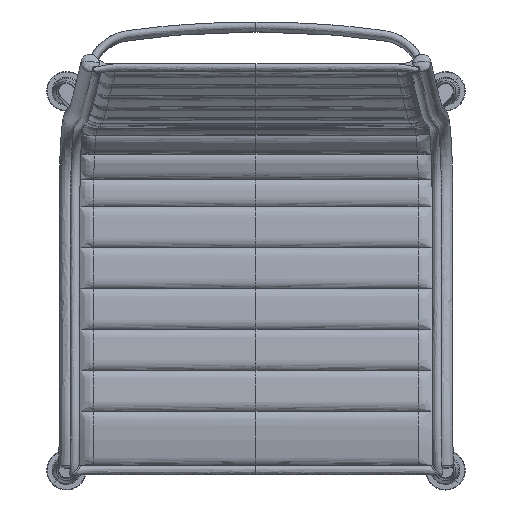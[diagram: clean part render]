
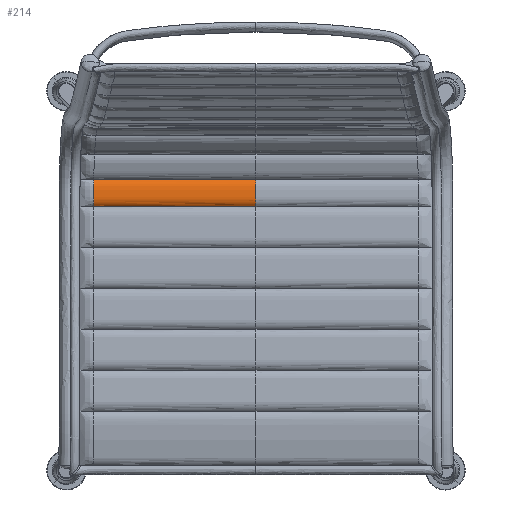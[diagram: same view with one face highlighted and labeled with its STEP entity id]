
A CAD part, top view. The second image highlights one B-rep face of the part: STEP entity #214.
In plain terms, the highlighted free-form (B-spline) face has degree [1, 3] with [2, 22] control points.
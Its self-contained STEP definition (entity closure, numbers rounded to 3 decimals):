
#214=ADVANCED_FACE('',(#565),#4840,.T.);
#565=FACE_OUTER_BOUND('',#916,.T.);
#916=EDGE_LOOP('',(#1724,#1725,#1726,#1727));
#1724=ORIENTED_EDGE('',*,*,#2993,.T.);
#1725=ORIENTED_EDGE('',*,*,#2991,.T.);
#1726=ORIENTED_EDGE('',*,*,#2992,.F.);
#1727=ORIENTED_EDGE('',*,*,#2994,.F.);
#2991=EDGE_CURVE('',#4493,#4492,#4013,.T.);
#2992=EDGE_CURVE('',#4494,#4492,#4014,.T.);
#2993=EDGE_CURVE('',#4495,#4493,#4015,.T.);
#2994=EDGE_CURVE('',#4495,#4494,#4016,.T.);
#4013=B_SPLINE_CURVE_WITH_KNOTS('',1,(#18047,#18048),.UNSPECIFIED.,.F.,
 .F.,(2,2),(-206.185,0.),.UNSPECIFIED.);
#4014=B_SPLINE_CURVE_WITH_KNOTS('',3,(#18049,#18050,#18051,#18052,#18053,
#18054,#18055,#18056,#18057,#18058,#18059,#18060,#18061,#18062,#18063,#18064,
#18065,#18066,#18067,#18068,#18069,#18070),.UNSPECIFIED.,.F.,.F.,(4,3,3,
3,3,3,3,4),(0.,4.786,9.818,15.612,19.005,
22.423,27.882,37.45),.UNSPECIFIED.);
#4015=B_SPLINE_CURVE_WITH_KNOTS('',3,(#18071,#18072,#18073,#18074,#18075,
#18076,#18077,#18078,#18079,#18080,#18081,#18082,#18083,#18084,#18085,#18086,
#18087,#18088,#18089,#18090,#18091,#18092),.UNSPECIFIED.,.F.,.F.,(4,3,3,
3,3,3,3,4),(0.,4.781,9.811,15.605,18.997,
22.415,27.875,37.437),.UNSPECIFIED.);
#4016=B_SPLINE_CURVE_WITH_KNOTS('',1,(#18093,#18094),.UNSPECIFIED.,.F.,
 .F.,(2,2),(-206.288,0.),.UNSPECIFIED.);
#4492=VERTEX_POINT('',#17409);
#4493=VERTEX_POINT('',#17410);
#4494=VERTEX_POINT('',#17411);
#4495=VERTEX_POINT('',#17412);
#4840=B_SPLINE_SURFACE_WITH_KNOTS('',1,3,((#12393,#12394,#12395,#12396,
#12397,#12398,#12399,#12400,#12401,#12402,#12403,#12404,#12405,#12406,#12407,
#12408,#12409,#12410,#12411,#12412,#12413,#12414),(#12415,#12416,#12417,
#12418,#12419,#12420,#12421,#12422,#12423,#12424,#12425,#12426,#12427,#12428,
#12429,#12430,#12431,#12432,#12433,#12434,#12435,#12436)),.UNSPECIFIED.,
 .F.,.F.,.F.,(2,2),(4,3,3,3,3,3,3,4),(0.,266.163),(0.,4.786,
9.818,15.612,19.005,22.423,27.882,
37.45),.UNSPECIFIED.);
#12393=CARTESIAN_POINT('',(-206.288,92.932,465.755));
#12394=CARTESIAN_POINT('',(-206.201,93.965,466.956));
#12395=CARTESIAN_POINT('',(-206.125,95.216,467.972));
#12396=CARTESIAN_POINT('',(-206.065,96.608,468.732));
#12397=CARTESIAN_POINT('',(-206.002,98.072,469.532));
#12398=CARTESIAN_POINT('',(-205.958,99.688,470.047));
#12399=CARTESIAN_POINT('',(-205.929,101.329,470.33));
#12400=CARTESIAN_POINT('',(-205.896,103.231,470.657));
#12401=CARTESIAN_POINT('',(-205.883,105.171,470.673));
#12402=CARTESIAN_POINT('',(-205.88,107.09,470.544));
#12403=CARTESIAN_POINT('',(-205.879,108.218,470.468));
#12404=CARTESIAN_POINT('',(-205.881,109.343,470.343));
#12405=CARTESIAN_POINT('',(-205.88,110.47,470.251));
#12406=CARTESIAN_POINT('',(-205.88,111.605,470.16));
#12407=CARTESIAN_POINT('',(-205.877,112.743,470.103));
#12408=CARTESIAN_POINT('',(-205.877,113.878,470.008));
#12409=CARTESIAN_POINT('',(-205.876,115.687,469.857));
#12410=CARTESIAN_POINT('',(-205.882,117.495,469.607));
#12411=CARTESIAN_POINT('',(-205.906,119.244,469.106));
#12412=CARTESIAN_POINT('',(-205.946,122.257,468.243));
#12413=CARTESIAN_POINT('',(-206.039,125.105,466.631));
#12414=CARTESIAN_POINT('',(-206.185,127.221,464.29));
#12415=CARTESIAN_POINT('',(59.875,92.932,465.755));
#12416=CARTESIAN_POINT('',(59.962,93.965,466.956));
#12417=CARTESIAN_POINT('',(60.038,95.216,467.972));
#12418=CARTESIAN_POINT('',(60.098,96.608,468.732));
#12419=CARTESIAN_POINT('',(60.161,98.072,469.532));
#12420=CARTESIAN_POINT('',(60.205,99.688,470.047));
#12421=CARTESIAN_POINT('',(60.234,101.329,470.33));
#12422=CARTESIAN_POINT('',(60.268,103.231,470.657));
#12423=CARTESIAN_POINT('',(60.28,105.171,470.673));
#12424=CARTESIAN_POINT('',(60.283,107.09,470.544));
#12425=CARTESIAN_POINT('',(60.284,108.218,470.468));
#12426=CARTESIAN_POINT('',(60.282,109.343,470.343));
#12427=CARTESIAN_POINT('',(60.283,110.47,470.251));
#12428=CARTESIAN_POINT('',(60.283,111.605,470.16));
#12429=CARTESIAN_POINT('',(60.286,112.743,470.103));
#12430=CARTESIAN_POINT('',(60.287,113.878,470.008));
#12431=CARTESIAN_POINT('',(60.287,115.687,469.857));
#12432=CARTESIAN_POINT('',(60.281,117.495,469.607));
#12433=CARTESIAN_POINT('',(60.257,119.244,469.106));
#12434=CARTESIAN_POINT('',(60.217,122.257,468.243));
#12435=CARTESIAN_POINT('',(60.124,125.105,466.631));
#12436=CARTESIAN_POINT('',(59.978,127.221,464.29));
#17409=CARTESIAN_POINT('',(-206.185,127.221,464.29));
#17410=CARTESIAN_POINT('',(0.,127.221,464.29));
#17411=CARTESIAN_POINT('',(-206.288,92.932,465.755));
#17412=CARTESIAN_POINT('',(0.,92.932,465.755));
#18047=CARTESIAN_POINT('',(0.,127.221,464.29));
#18048=CARTESIAN_POINT('',(-206.185,127.221,464.29));
#18049=CARTESIAN_POINT('',(-206.288,92.932,465.755));
#18050=CARTESIAN_POINT('',(-206.201,93.965,466.956));
#18051=CARTESIAN_POINT('',(-206.125,95.216,467.972));
#18052=CARTESIAN_POINT('',(-206.065,96.608,468.732));
#18053=CARTESIAN_POINT('',(-206.002,98.072,469.532));
#18054=CARTESIAN_POINT('',(-205.958,99.688,470.047));
#18055=CARTESIAN_POINT('',(-205.929,101.329,470.33));
#18056=CARTESIAN_POINT('',(-205.896,103.231,470.657));
#18057=CARTESIAN_POINT('',(-205.883,105.171,470.673));
#18058=CARTESIAN_POINT('',(-205.88,107.09,470.544));
#18059=CARTESIAN_POINT('',(-205.879,108.218,470.468));
#18060=CARTESIAN_POINT('',(-205.881,109.343,470.343));
#18061=CARTESIAN_POINT('',(-205.88,110.47,470.251));
#18062=CARTESIAN_POINT('',(-205.88,111.605,470.16));
#18063=CARTESIAN_POINT('',(-205.877,112.743,470.103));
#18064=CARTESIAN_POINT('',(-205.877,113.878,470.008));
#18065=CARTESIAN_POINT('',(-205.876,115.687,469.857));
#18066=CARTESIAN_POINT('',(-205.882,117.495,469.607));
#18067=CARTESIAN_POINT('',(-205.906,119.244,469.106));
#18068=CARTESIAN_POINT('',(-205.946,122.257,468.243));
#18069=CARTESIAN_POINT('',(-206.039,125.105,466.631));
#18070=CARTESIAN_POINT('',(-206.185,127.221,464.29));
#18071=CARTESIAN_POINT('',(0.,92.932,465.755));
#18072=CARTESIAN_POINT('',(0.,93.966,466.956));
#18073=CARTESIAN_POINT('',(0.,95.217,467.972));
#18074=CARTESIAN_POINT('',(0.,96.608,468.732));
#18075=CARTESIAN_POINT('',(0.,98.073,469.532));
#18076=CARTESIAN_POINT('',(0.,99.689,470.047));
#18077=CARTESIAN_POINT('',(0.,101.329,470.33));
#18078=CARTESIAN_POINT('',(0.,103.232,470.657));
#18079=CARTESIAN_POINT('',(0.,105.171,470.673));
#18080=CARTESIAN_POINT('',(0.,107.09,470.544));
#18081=CARTESIAN_POINT('',(0.,108.218,470.468));
#18082=CARTESIAN_POINT('',(0.,109.343,470.343));
#18083=CARTESIAN_POINT('',(0.,110.47,470.251));
#18084=CARTESIAN_POINT('',(0.,111.605,470.16));
#18085=CARTESIAN_POINT('',(0.,112.743,470.103));
#18086=CARTESIAN_POINT('',(0.,113.878,470.008));
#18087=CARTESIAN_POINT('',(0.,115.686,469.857));
#18088=CARTESIAN_POINT('',(0.,117.495,469.607));
#18089=CARTESIAN_POINT('',(0.,119.244,469.106));
#18090=CARTESIAN_POINT('',(0.,122.255,468.244));
#18091=CARTESIAN_POINT('',(0.,125.104,466.632));
#18092=CARTESIAN_POINT('',(0.,127.221,464.29));
#18093=CARTESIAN_POINT('',(0.,92.932,465.755));
#18094=CARTESIAN_POINT('',(-206.288,92.932,465.755));
